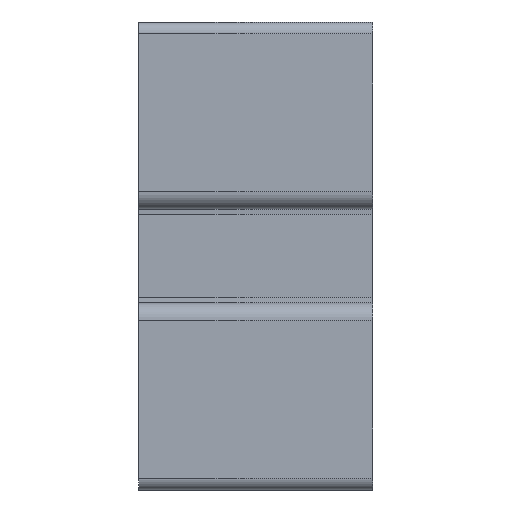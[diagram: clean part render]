
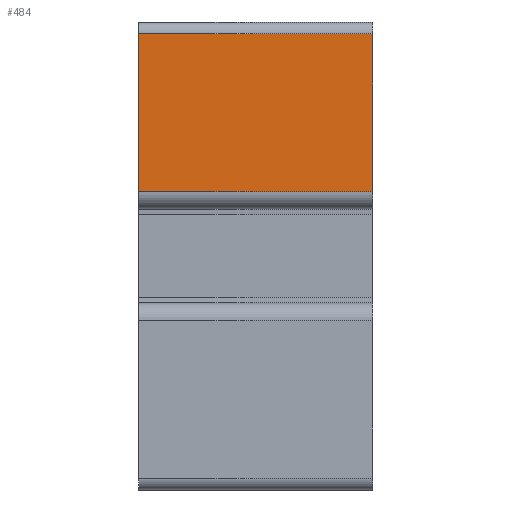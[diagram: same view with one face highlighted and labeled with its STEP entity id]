
A CAD part, left-side view. The second image highlights one B-rep face of the part: STEP entity #484.
In plain terms, the highlighted planar face has unit normal (-1, 0, 0).
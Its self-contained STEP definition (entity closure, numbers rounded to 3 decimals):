
#484=ADVANCED_FACE('',(#1049),#1050,.T.);
#1049=FACE_OUTER_BOUND('',#1696,.T.);
#1050=PLANE('',#1697);
#1696=EDGE_LOOP('',(#3089,#3090,#3091,#3092));
#1697=AXIS2_PLACEMENT_3D('',#3093,#3094,#3095);
#3089=ORIENTED_EDGE('',*,*,#4549,.T.);
#3090=ORIENTED_EDGE('',*,*,#4578,.T.);
#3091=ORIENTED_EDGE('',*,*,#4579,.F.);
#3092=ORIENTED_EDGE('',*,*,#4458,.F.);
#3093=CARTESIAN_POINT('',(-40.0,10.0,0.0));
#3094=DIRECTION('',(-1.0,0.0,0.0));
#3095=DIRECTION('',(0.0,0.0,-1.0));
#4458=EDGE_CURVE('',#5533,#5535,#5536,.T.);
#4549=EDGE_CURVE('',#5533,#5675,#5678,.T.);
#4578=EDGE_CURVE('',#5675,#5715,#5716,.T.);
#4579=EDGE_CURVE('',#5535,#5715,#5717,.T.);
#5533=VERTEX_POINT('',#6955);
#5535=VERTEX_POINT('',#6957);
#5536=LINE('',#6958,#6959);
#5675=VERTEX_POINT('',#7143);
#5678=LINE('',#7146,#7147);
#5715=VERTEX_POINT('',#7198);
#5716=LINE('',#7199,#7200);
#5717=LINE('',#7201,#7202);
#6955=CARTESIAN_POINT('',(-40.,10.0,5.5));
#6957=CARTESIAN_POINT('',(-40.0,10.0,19.0));
#6958=CARTESIAN_POINT('',(-40.0,10.0,-19.0));
#6959=VECTOR('',#8329,1.0);
#7143=CARTESIAN_POINT('',(-40.,-10.0,5.5));
#7146=CARTESIAN_POINT('',(-40.0,10.0,5.5));
#7147=VECTOR('',#8450,1.0);
#7198=CARTESIAN_POINT('',(-40.0,-10.0,19.0));
#7199=CARTESIAN_POINT('',(-40.0,-10.0,-19.0));
#7200=VECTOR('',#8477,1.0);
#7201=CARTESIAN_POINT('',(-40.0,10.0,19.0));
#7202=VECTOR('',#8478,1.0);
#8329=DIRECTION('',(0.0,0.0,1.0));
#8450=DIRECTION('',(0.0,-1.0,0.0));
#8477=DIRECTION('',(0.0,0.0,1.0));
#8478=DIRECTION('',(0.0,-1.0,0.0));
